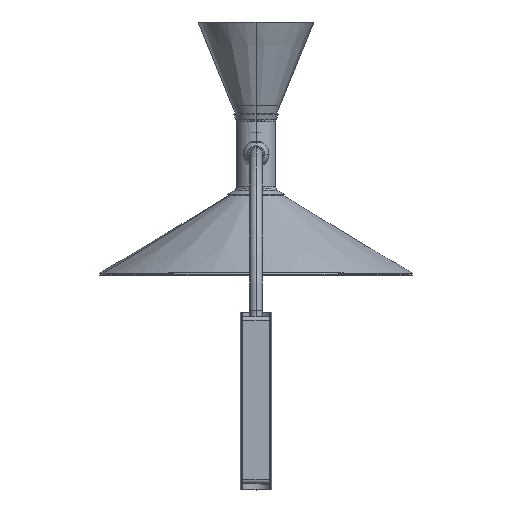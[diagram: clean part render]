
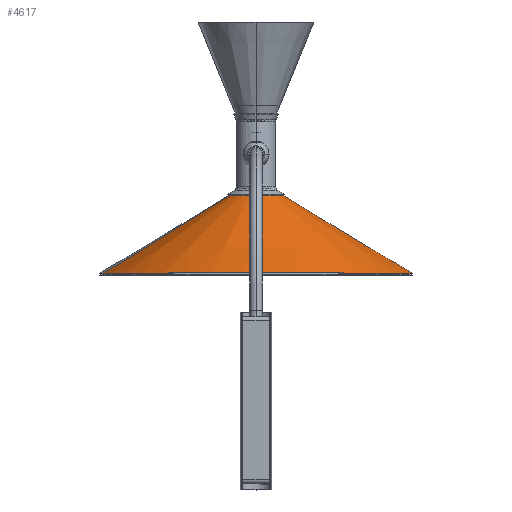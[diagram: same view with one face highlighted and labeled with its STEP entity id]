
A CAD part, top view. The second image highlights one B-rep face of the part: STEP entity #4617.
In plain terms, the highlighted conical face has half-angle 59 degrees and reference radius 149.81 mm.
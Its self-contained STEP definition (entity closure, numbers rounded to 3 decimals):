
#109 = CARTESIAN_POINT ( 'NONE',  ( -19.964, 102.694, -558.501 ) ) ;
#432 = CARTESIAN_POINT ( 'NONE',  ( -19.964, 28.346, -558.501 ) ) ;
#661 = EDGE_CURVE ( 'NONE', #6220, #6442, #5441, .T. ) ;
#831 = CIRCLE ( 'NONE', #10587, 26.073 ) ;
#1288 = DIRECTION ( 'NONE',  ( 0., 0., -1. ) ) ;
#1421 = EDGE_CURVE ( 'NONE', #6220, #3125, #3215, .T. ) ;
#1584 = CONICAL_SURFACE ( 'NONE', #7531, 149.81, 1.03 ) ;
#1587 = EDGE_CURVE ( 'NONE', #4328, #3125, #7843, .T. ) ;
#2778 = DIRECTION ( 'NONE',  ( -0.971, 0., 0.238 ) ) ;
#2889 = CARTESIAN_POINT ( 'NONE',  ( 125.527, 28.346, -594.212 ) ) ;
#3125 = VERTEX_POINT ( 'NONE', #2889 ) ;
#3215 = LINE ( 'NONE', #12526, #6183 ) ;
#3485 = DIRECTION ( 'NONE',  ( 0., 1., 0. ) ) ;
#3551 = VECTOR ( 'NONE', #14421, 1000. ) ;
#4328 = VERTEX_POINT ( 'NONE', #12312 ) ;
#4525 = ORIENTED_EDGE ( 'NONE', *, *, #1421, .F. ) ;
#4601 = DIRECTION ( 'NONE',  ( 0., -1., 0. ) ) ;
#4617 = ADVANCED_FACE ( 'NONE', ( #5074 ), #1584, .T. ) ;
#4755 = EDGE_LOOP ( 'NONE', ( #4525, #13995, #10938, #8983, #6629 ) ) ;
#5074 = FACE_OUTER_BOUND ( 'NONE', #4755, .T. ) ;
#5441 = CIRCLE ( 'NONE', #12160, 26.073 ) ;
#5575 = EDGE_CURVE ( 'NONE', #6442, #14571, #831, .T. ) ;
#5650 = CARTESIAN_POINT ( 'NONE',  ( -45.285, 102.694, -552.286 ) ) ;
#6183 = VECTOR ( 'NONE', #12584, 1000. ) ;
#6220 = VERTEX_POINT ( 'NONE', #11997 ) ;
#6442 = VERTEX_POINT ( 'NONE', #13759 ) ;
#6629 = ORIENTED_EDGE ( 'NONE', *, *, #1587, .T. ) ;
#6690 = LINE ( 'NONE', #7370, #3551 ) ;
#7231 = EDGE_CURVE ( 'NONE', #14571, #4328, #6690, .T. ) ;
#7370 = CARTESIAN_POINT ( 'NONE',  ( -165.454, 28.346, -522.79 ) ) ;
#7531 = AXIS2_PLACEMENT_3D ( 'NONE', #432, #13319, #2778 ) ;
#7843 = CIRCLE ( 'NONE', #12570, 149.81 ) ;
#8307 = DIRECTION ( 'NONE',  ( 0., -1., 0. ) ) ;
#8983 = ORIENTED_EDGE ( 'NONE', *, *, #7231, .T. ) ;
#10541 = CARTESIAN_POINT ( 'NONE',  ( -19.964, 28.346, -558.501 ) ) ;
#10587 = AXIS2_PLACEMENT_3D ( 'NONE', #109, #8307, #1288 ) ;
#10938 = ORIENTED_EDGE ( 'NONE', *, *, #5575, .T. ) ;
#11641 = CARTESIAN_POINT ( 'NONE',  ( -19.964, 102.694, -558.501 ) ) ;
#11715 = DIRECTION ( 'NONE',  ( 0.971, 0., -0.238 ) ) ;
#11997 = CARTESIAN_POINT ( 'NONE',  ( 5.358, 102.694, -564.716 ) ) ;
#12160 = AXIS2_PLACEMENT_3D ( 'NONE', #11641, #4601, #12845 ) ;
#12312 = CARTESIAN_POINT ( 'NONE',  ( -165.454, 28.346, -522.79 ) ) ;
#12526 = CARTESIAN_POINT ( 'NONE',  ( 125.527, 28.346, -594.212 ) ) ;
#12570 = AXIS2_PLACEMENT_3D ( 'NONE', #10541, #3485, #11715 ) ;
#12584 = DIRECTION ( 'NONE',  ( 0.832, -0.515, -0.204 ) ) ;
#12845 = DIRECTION ( 'NONE',  ( 0., 0., -1. ) ) ;
#13319 = DIRECTION ( 'NONE',  ( 0., -1., 0. ) ) ;
#13759 = CARTESIAN_POINT ( 'NONE',  ( -19.964, 102.694, -532.428 ) ) ;
#13995 = ORIENTED_EDGE ( 'NONE', *, *, #661, .T. ) ;
#14421 = DIRECTION ( 'NONE',  ( -0.832, -0.515, 0.204 ) ) ;
#14571 = VERTEX_POINT ( 'NONE', #5650 ) ;
